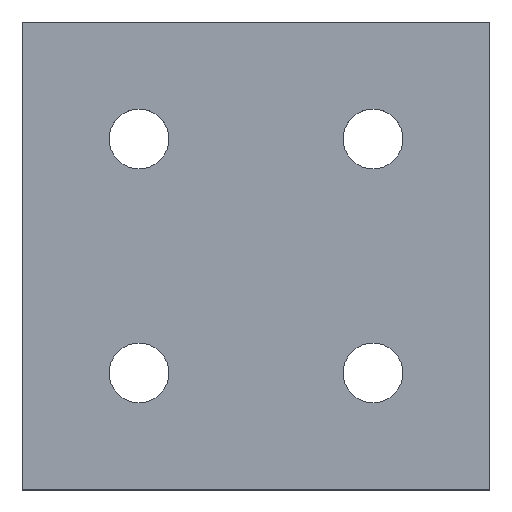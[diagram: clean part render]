
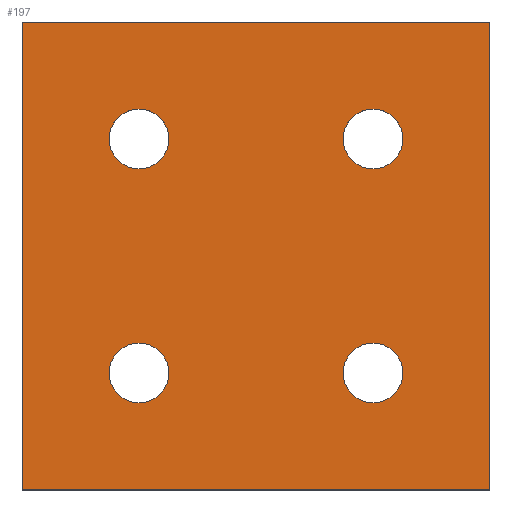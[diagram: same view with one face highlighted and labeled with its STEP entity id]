
A CAD part, top view. The second image highlights one B-rep face of the part: STEP entity #197.
In plain terms, the highlighted planar face has unit normal (0, 0, 1).
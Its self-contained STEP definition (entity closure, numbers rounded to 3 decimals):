
#15=FACE_BOUND('',#48,.T.);
#16=FACE_BOUND('',#49,.T.);
#17=FACE_BOUND('',#50,.T.);
#18=FACE_BOUND('',#51,.T.);
#27=PLANE('',#229);
#37=FACE_OUTER_BOUND('',#47,.T.);
#47=EDGE_LOOP('',(#169,#170,#171,#172));
#48=EDGE_LOOP('',(#173));
#49=EDGE_LOOP('',(#174));
#50=EDGE_LOOP('',(#175));
#51=EDGE_LOOP('',(#176));
#63=LINE('',#317,#79);
#66=LINE('',#323,#82);
#69=LINE('',#329,#85);
#72=LINE('',#333,#88);
#79=VECTOR('',#265,10.);
#82=VECTOR('',#270,10.);
#85=VECTOR('',#275,10.);
#88=VECTOR('',#280,10.);
#90=CIRCLE('',#215,2.55);
#92=CIRCLE('',#218,2.55);
#94=CIRCLE('',#221,2.55);
#96=CIRCLE('',#224,2.55);
#98=VERTEX_POINT('',#289);
#100=VERTEX_POINT('',#295);
#102=VERTEX_POINT('',#301);
#104=VERTEX_POINT('',#307);
#107=VERTEX_POINT('',#314);
#108=VERTEX_POINT('',#316);
#110=VERTEX_POINT('',#322);
#112=VERTEX_POINT('',#328);
#115=EDGE_CURVE('',#98,#98,#90,.T.);
#118=EDGE_CURVE('',#100,#100,#92,.T.);
#121=EDGE_CURVE('',#102,#102,#94,.T.);
#124=EDGE_CURVE('',#104,#104,#96,.T.);
#127=EDGE_CURVE('',#108,#107,#63,.T.);
#130=EDGE_CURVE('',#110,#108,#66,.T.);
#133=EDGE_CURVE('',#112,#110,#69,.T.);
#136=EDGE_CURVE('',#107,#112,#72,.T.);
#169=ORIENTED_EDGE('',*,*,#136,.T.);
#170=ORIENTED_EDGE('',*,*,#133,.T.);
#171=ORIENTED_EDGE('',*,*,#130,.T.);
#172=ORIENTED_EDGE('',*,*,#127,.T.);
#173=ORIENTED_EDGE('',*,*,#124,.T.);
#174=ORIENTED_EDGE('',*,*,#121,.T.);
#175=ORIENTED_EDGE('',*,*,#118,.T.);
#176=ORIENTED_EDGE('',*,*,#115,.T.);
#197=ADVANCED_FACE('',(#37,#15,#16,#17,#18),#27,.T.);
#215=AXIS2_PLACEMENT_3D('',#291,#238,#239);
#218=AXIS2_PLACEMENT_3D('',#297,#245,#246);
#221=AXIS2_PLACEMENT_3D('',#303,#252,#253);
#224=AXIS2_PLACEMENT_3D('',#309,#259,#260);
#229=AXIS2_PLACEMENT_3D('',#334,#281,#282);
#238=DIRECTION('center_axis',(0.,0.,-1.));
#239=DIRECTION('ref_axis',(1.,0.,0.));
#245=DIRECTION('center_axis',(0.,0.,-1.));
#246=DIRECTION('ref_axis',(1.,0.,0.));
#252=DIRECTION('center_axis',(0.,0.,-1.));
#253=DIRECTION('ref_axis',(1.,0.,0.));
#259=DIRECTION('center_axis',(0.,0.,-1.));
#260=DIRECTION('ref_axis',(1.,0.,0.));
#265=DIRECTION('',(0.,1.,0.));
#270=DIRECTION('',(1.,0.,0.));
#275=DIRECTION('',(0.,-1.,0.));
#280=DIRECTION('',(-1.,0.,0.));
#281=DIRECTION('center_axis',(0.,0.,1.));
#282=DIRECTION('ref_axis',(1.,0.,0.));
#289=CARTESIAN_POINT('',(-12.55,10.,4.));
#291=CARTESIAN_POINT('Origin',(-10.,10.,4.));
#295=CARTESIAN_POINT('',(7.45,-10.,4.));
#297=CARTESIAN_POINT('Origin',(10.,-10.,4.));
#301=CARTESIAN_POINT('',(-12.55,-10.,4.));
#303=CARTESIAN_POINT('Origin',(-10.,-10.,4.));
#307=CARTESIAN_POINT('',(7.45,10.,4.));
#309=CARTESIAN_POINT('Origin',(10.,10.,4.));
#314=CARTESIAN_POINT('',(20.,20.,4.));
#316=CARTESIAN_POINT('',(20.,-20.,4.));
#317=CARTESIAN_POINT('',(20.,20.,4.));
#322=CARTESIAN_POINT('',(-20.,-20.,4.));
#323=CARTESIAN_POINT('',(20.,-20.,4.));
#328=CARTESIAN_POINT('',(-20.,20.,4.));
#329=CARTESIAN_POINT('',(-20.,-20.,4.));
#333=CARTESIAN_POINT('',(-20.,20.,4.));
#334=CARTESIAN_POINT('Origin',(0.,0.,4.));
